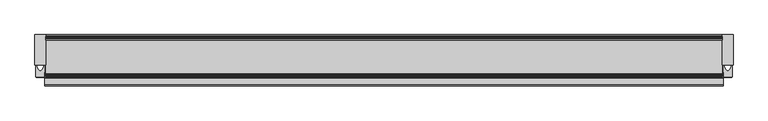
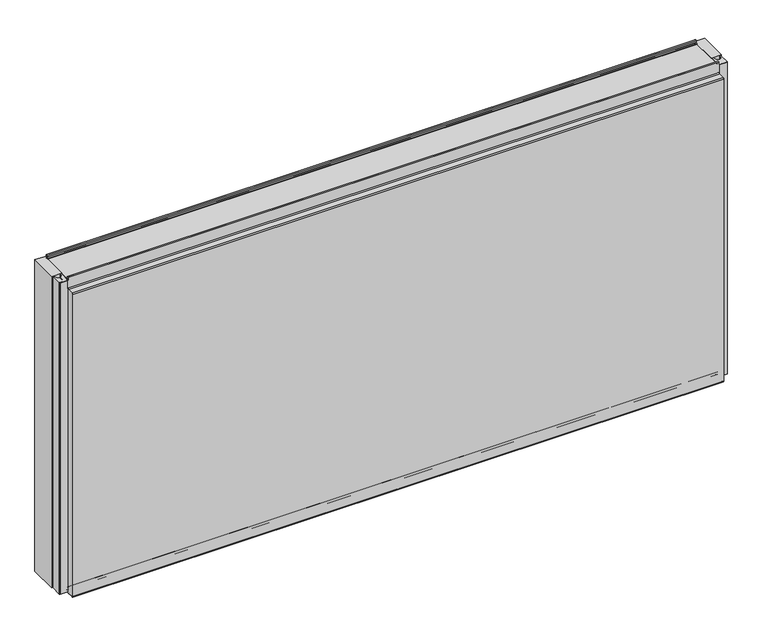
"""IFC4 building model written with IfcOpenShell, lengths in millimetres: plate geometry, Fronttop : Fronttop 150/1000."""

import ifcopenshell
import ifcopenshell.guid

model = None  # the IFC model being written
_history = None  # IfcOwnerHistory: only IFC2X3 demands one
_inside = {}  # id of a spatial element -> (the spatial element, [elements in it])
_under = {}  # id of a project, library or spatial element -> (it, [spatial elements below it])
_declared = {}  # id of a project -> (the project, [libraries it declares])
_typed = {}  # id of a type object -> (the type object, [elements of that type])
_made_of = {}  # id of a material, layer set ... -> (it, [elements and type objects made of it])


def new_model(schema):
    """Start an empty IFC model of exactly this schema.

    Asked for "IFC4X3", IfcOpenShell would pick the latest addendum, in which some entities
    have other attributes; the version numbers below select the first issue.
    IFC2X3 requires an IfcOwnerHistory on every rooted entity: one is made here for all.
    """
    global model, _history
    if schema == "IFC4X3":
        model = ifcopenshell.file(schema_version=(4, 3, 0, 0))
    else:
        model = ifcopenshell.file(schema=schema)
    _inside.clear()
    _under.clear()
    _declared.clear()
    _typed.clear()
    _made_of.clear()
    _history = None
    if model.schema == "IFC2X3":
        org = make("IfcOrganization", Name="unknown")
        user = make(
            "IfcPersonAndOrganization",
            ThePerson=make("IfcPerson", FamilyName="unknown"),
            TheOrganization=org,
        )
        app = make(
            "IfcApplication",
            ApplicationDeveloper=org,
            Version="unknown",
            ApplicationFullName="unknown",
            ApplicationIdentifier="unknown",
        )
        _history = make(
            "IfcOwnerHistory",
            OwningUser=user,
            OwningApplication=app,
            ChangeAction="ADDED",
            CreationDate=0,
        )
    return model


def make(cls, **values):
    """One entity of the class cls with the attributes given. An attribute that is None is left unset."""
    return model.create_entity(
        cls, **{name: value for name, value in values.items() if value is not None}
    )


def rooted(cls, **values):
    """An entity with a GlobalId (a new one), such as an element, a storey or a relation."""
    return make(cls, GlobalId=ifcopenshell.guid.new(), OwnerHistory=_history, **values)


def si_unit(unit_type, name, prefix=None):
    """IfcSIUnit, for example si_unit("LENGTHUNIT", "METRE", prefix="MILLI")."""
    return make("IfcSIUnit", UnitType=unit_type, Prefix=prefix, Name=name)


def assignment(units):
    """IfcUnitAssignment: the units of a project."""
    return None if units is None else make("IfcUnitAssignment", Units=units)


def point(xyz):
    """IfcCartesianPoint."""
    return None if xyz is None else make("IfcCartesianPoint", Coordinates=xyz)


def direction(xyz):
    """IfcDirection."""
    return None if xyz is None else make("IfcDirection", DirectionRatios=xyz)


def frame(location, z_axis=None, x_axis=None):
    """IfcAxis2Placement3D, a coordinate frame: its origin and axes. An axis left out is left unset."""
    return make(
        "IfcAxis2Placement3D",
        Location=point(location),
        Axis=direction(z_axis),
        RefDirection=direction(x_axis),
    )


def frame_2d(location, x_axis=None):
    """IfcAxis2Placement2D, a coordinate frame in the plane: its origin and x axis."""
    return make(
        "IfcAxis2Placement2D", Location=point(location), RefDirection=direction(x_axis)
    )


def origin():
    """The frame at (0, 0, 0) with its axes left unset."""
    return frame((0.0, 0.0, 0.0))


def origin_with_axes():
    """The frame at (0, 0, 0) with the z axis (0, 0, 1) and the x axis (1, 0, 0) written out."""
    return frame((0.0, 0.0, 0.0), z_axis=(0.0, 0.0, 1.0), x_axis=(1.0, 0.0, 0.0))


def place(relative_to, where):
    """IfcLocalPlacement: puts the frame where relative to a parent placement (None: the world)."""
    return make(
        "IfcLocalPlacement", PlacementRelTo=relative_to, RelativePlacement=where
    )


def context(
    kind, dimensions, precision=None, world=None, true_north=None, identifier=None
):
    """IfcGeometricRepresentationContext, for example the 3D "Model" context."""
    return make(
        "IfcGeometricRepresentationContext",
        ContextIdentifier=identifier,
        ContextType=kind,
        CoordinateSpaceDimension=dimensions,
        Precision=precision,
        WorldCoordinateSystem=world,
        TrueNorth=true_north,
    )


def project(units=None, contexts=None):
    """IfcProject with its units and contexts."""
    return rooted(
        "IfcProject",
        Name="project",
        RepresentationContexts=contexts,
        UnitsInContext=assignment(units),
    )


def spatial(cls, under=None, at=None, **own):
    """A site, building, storey or space (cls), placed at a placement, below another one or the project."""
    s = rooted(cls, ObjectPlacement=at, **own)
    if under is not None:
        _under.setdefault(under.id(), (under, []))[1].append(s)
    return s


def polyline(points):
    """IfcPolyline through the points."""
    return make("IfcPolyline", Points=[point(p) for p in points])


def circle_curve(where, radius):
    """IfcCircle in the frame where."""
    return make("IfcCircle", Position=where, Radius=radius)


def trimmed(basis, trim1, trim2, sense, master):
    """IfcTrimmedCurve: the piece of a basis curve between two trims."""
    return make(
        "IfcTrimmedCurve",
        BasisCurve=basis,
        Trim1=trim1,
        Trim2=trim2,
        SenseAgreement=sense,
        MasterRepresentation=master,
    )


def segment(curve, same_sense, transition):
    """IfcCompositeCurveSegment."""
    return make(
        "IfcCompositeCurveSegment",
        Transition=transition,
        SameSense=same_sense,
        ParentCurve=curve,
    )


def composite_curve(segments, self_intersect=None):
    """IfcCompositeCurve: segments joined end to end."""
    return make("IfcCompositeCurve", Segments=segments, SelfIntersect=self_intersect)


def outline(outer, holes=None, kind="AREA"):
    """IfcArbitraryClosedProfileDef: a profile drawn as a closed curve; with holes, ...WithVoids."""
    if holes is None:
        return make("IfcArbitraryClosedProfileDef", ProfileType=kind, OuterCurve=outer)
    return make(
        "IfcArbitraryProfileDefWithVoids",
        ProfileType=kind,
        OuterCurve=outer,
        InnerCurves=holes,
    )


def extrude(swept, where, along, depth):
    """IfcExtrudedAreaSolid: the profile swept, set in the frame where, extruded along a direction by depth."""
    return make(
        "IfcExtrudedAreaSolid",
        SweptArea=swept,
        Position=where,
        ExtrudedDirection=direction(along),
        Depth=depth,
    )


def shape(context_of_items, identifier, shape_type, items):
    """IfcShapeRepresentation: the items that make up one representation, for example the "Body"."""
    return make(
        "IfcShapeRepresentation",
        ContextOfItems=context_of_items,
        RepresentationIdentifier=identifier,
        RepresentationType=shape_type,
        Items=items,
    )


def source(mapping_origin, context_of_items, identifier, shape_type, items):
    """IfcRepresentationMap: a shape defined once, which mapped items show again and again."""
    return make(
        "IfcRepresentationMap",
        MappingOrigin=mapping_origin,
        MappedRepresentation=shape(context_of_items, identifier, shape_type, items),
    )


def transform(
    local_origin,
    x_axis=None,
    y_axis=None,
    z_axis=None,
    scale=None,
    scale2=None,
    scale3=None,
    uniform=True,
):
    """IfcCartesianTransformationOperator3D, or its non-uniform kind. x_axis, y_axis, z_axis: its Axis1, 2, 3."""
    if uniform:
        return make(
            "IfcCartesianTransformationOperator3D",
            Axis1=direction(x_axis),
            Axis2=direction(y_axis),
            LocalOrigin=point(local_origin),
            Scale=scale,
            Axis3=direction(z_axis),
        )
    return make(
        "IfcCartesianTransformationOperator3DnonUniform",
        Axis1=direction(x_axis),
        Axis2=direction(y_axis),
        LocalOrigin=point(local_origin),
        Scale=scale,
        Axis3=direction(z_axis),
        Scale2=scale2,
        Scale3=scale3,
    )


def mapped(mapping_source, mapping_target):
    """IfcMappedItem: shows the shape of a source again, moved by a transform."""
    return make(
        "IfcMappedItem", MappingSource=mapping_source, MappingTarget=mapping_target
    )


def made_of(thing, what):
    """Note that an element or type object is made of a material, layer set ...; save() writes the relation."""
    if what is not None:
        _made_of.setdefault(what.id(), (what, []))[1].append(thing)
    return thing


def element(
    cls,
    number,
    at=None,
    inside=None,
    cuts=None,
    type_object=None,
    material=None,
    context=None,
    identifier="Body",
    shape_type=None,
    held_by="IfcProductDefinitionShape",
    body=None,
    shapes=None,
    **own,
):
    """One element of the class cls, such as IfcWall. Its Tag is "e" and its number.

    at: its placement. inside: the storey or other place that contains it. cuts: it is an
    opening in that element (IfcRelVoidsElement). A single representation is given by context,
    identifier, shape_type and body (its items); several are given by shapes. held_by: the class
    of the entity that holds the representations. save() writes the other relations.
    """
    e = rooted(cls, Tag="e%d" % number, ObjectPlacement=at, **own)
    if body is not None:
        shapes = [shape(context, identifier, shape_type, body)]
    if shapes is not None:
        e.Representation = make(held_by, Representations=shapes)
    if inside is not None:
        _inside.setdefault(inside.id(), (inside, []))[1].append(e)
    if cuts is not None:
        rooted(
            "IfcRelVoidsElement", RelatingBuildingElement=cuts, RelatedOpeningElement=e
        )
    if type_object is not None:
        _typed.setdefault(type_object.id(), (type_object, []))[1].append(e)
    return made_of(e, material)


def aggregate(whole, parts):
    """IfcRelAggregates: a whole, such as a stair, and the parts it consists of."""
    return rooted("IfcRelAggregates", RelatingObject=whole, RelatedObjects=parts)


def save(model, path):
    """Write the relations noted so far, then the file.

    IfcRelAggregates (storeys below a building ...), IfcRelContainedInSpatialStructure (elements
    in a storey), IfcRelDefinesByType, IfcRelAssociatesMaterial and IfcRelDeclares: one each for
    every whole, place, type object, material and project.
    """
    for whole, parts in _under.values():
        aggregate(whole, parts)
    for where, things in _inside.values():
        rooted(
            "IfcRelContainedInSpatialStructure",
            RelatedElements=things,
            RelatingStructure=where,
        )
    for kind, things in _typed.values():
        rooted("IfcRelDefinesByType", RelatedObjects=things, RelatingType=kind)
    for what, things in _made_of.values():
        rooted("IfcRelAssociatesMaterial", RelatedObjects=things, RelatingMaterial=what)
    for by, libraries in _declared.values():
        rooted("IfcRelDeclares", RelatingContext=by, RelatedDefinitions=libraries)
    model.write(path)


def plane_surface(at):
    """IfcPlane: the flat surface through the origin of the frame at, square to its z axis."""
    return make("IfcPlane", Position=at)


def cylinder_surface(at, radius):
    """IfcCylindricalSurface: all points at the distance radius from the z axis of the frame at."""
    return make("IfcCylindricalSurface", Position=at, Radius=radius)


def revolved_surface(curve, axis_point, axis_direction):
    """IfcSurfaceOfRevolution: the curve turned about the line through axis_point along axis_direction."""
    return make(
        "IfcSurfaceOfRevolution",
        SweptCurve=make("IfcArbitraryOpenProfileDef", ProfileType="CURVE", Curve=curve),
        AxisPosition=make("IfcAxis1Placement", Location=point(axis_point), Axis=direction(axis_direction)),
    )


def advanced_brep(points, edges, surfaces, faces):
    """IfcAdvancedBrep: a solid bounded by faces that lie on surfaces and meet in shared edges.

    An edge is (start, end): straight between two places in points (the first is 0);
    or (start, end, curve); or (start, end, curve, False) where it runs against its curve.
    A face is (place in surfaces, loops), or (place, loops, False) where it looks against
    its surface's normal. A loop lists edges by number (the first is 1), with a minus sign
    where the edge is run from its end to its start. The first loop is the outer one.
    """
    corners = [point(p) for p in points]
    vertices = [make("IfcVertexPoint", VertexGeometry=c) for c in corners]
    made = []
    for start, end, *more in edges:
        made.append(
            make(
                "IfcEdgeCurve",
                EdgeStart=vertices[start],
                EdgeEnd=vertices[end],
                EdgeGeometry=more[0] if more else make("IfcPolyline", Points=[corners[start], corners[end]]),
                SameSense=more[1] if len(more) > 1 else True,
            )
        )
    hull = []
    for where, loops, *sense in faces:
        bounds = []
        for j, loop in enumerate(loops):
            ring = [make("IfcOrientedEdge", EdgeElement=made[abs(k) - 1], Orientation=k > 0) for k in loop]
            bounds.append(
                make(
                    "IfcFaceOuterBound" if j == 0 else "IfcFaceBound",
                    Bound=make("IfcEdgeLoop", EdgeList=ring),
                    Orientation=True,
                )
            )
        hull.append(make("IfcAdvancedFace", Bounds=bounds, FaceSurface=surfaces[where], SameSense=sense[0] if sense else True))
    return make("IfcAdvancedBrep", Outer=make("IfcClosedShell", CfsFaces=hull))


def plate_90e80e06(model_context):
    return source(origin(), model_context, "Body", "SolidModel", [
        advanced_brep(
        [(-986.5, -124.0, 1008.0), (-986.5, -124.0, 1000.0), (-986.5, -125.0, 1000.0), (-986.5, -125.0, 1008.0), (-986.5, -120.0, 1008.0), (-986.5, -120.0, 1004.0), (-986.5, -117.0, 1001.0), (-986.5, -115.0, 1001.0), (-986.5, -115.0, 1000.0), (-986.5, -117.0, 1000.0), (-986.5, -121.0, 1004.0), (-986.5, -121.0, 1008.0), (986.5, -125.0, 1008.0), (986.5, -125.0, 1000.0), (986.5, -124.0, 1000.0), (986.5, -124.0, 1008.0), (986.5, -121.0, 1008.0), (986.5, -121.0, 1004.0), (986.5, -117.0, 1000.0), (986.5, -115.0, 1000.0), (986.5, -115.0, 1001.0), (986.5, -117.0, 1001.0), (986.5, -120.0, 1004.0), (986.5, -120.0, 1008.0), (-986.5, -117.0, 2.0), (-986.5, -115.0, 2.0), (986.5, -115.0, 2.0), (986.5, -117.0, 2.0), (986.5, -119.0, 4.0), (-986.5, -119.0, 4.0), (986.5, -119.0, 8.0), (-986.5, -119.0, 8.0), (986.5, -126.0, 8.0), (-986.5, -126.0, 8.0), (986.5, -126.0, 0.0), (-986.5, -126.0, 0.0), (986.5, -129.0, -3.0), (-986.5, -129.0, -3.0), (986.5, -125.0, -3.0), (987.5, -125.0, -3.0), (987.5, -147.0, -3.0), (986.5, -147.0, -3.0), (-986.5, -147.0, -3.0), (-987.5, -147.0, -3.0), (-987.5, -125.0, -3.0), (-986.5, -125.0, -3.0), (986.5, -150.0, 0.0), (-986.5, -150.0, 0.0), (987.5, -150.0, 0.0), (987.5, -150.0, 969.0), (986.5, -150.0, 969.0), (-986.5, -150.0, 969.0), (-987.5, -150.0, 969.0), (-987.5, -150.0, 0.0), (986.5, -147.0, 972.0), (-986.5, -147.0, 972.0), (987.5, -147.0, 972.0), (987.5, -128.0, 972.0), (986.5, -128.0, 972.0), (-986.5, -128.0, 972.0), (-987.5, -128.0, 972.0), (-987.5, -147.0, 972.0), (986.5, -125.0, 975.0), (-986.5, -125.0, 975.0), (987.5, -125.0, 975.0), (987.5, -125.0, 1000.0), (-987.5, -125.0, 1000.0), (-987.5, -125.0, 975.0), (986.5, -124.0, 975.0), (-986.5, -124.0, 975.0), (986.5, -128.0, 971.0), (-986.5, -128.0, 971.0), (986.5, -147.0, 971.0), (-986.5, -147.0, 971.0), (986.5, -149.0, 969.0), (-986.5, -149.0, 969.0), (986.5, -149.0, 0.0), (-986.5, -149.0, 0.0), (986.5, -147.0, -2.0), (-986.5, -147.0, -2.0), (986.5, -129.0, -2.0), (-986.5, -129.0, -2.0), (986.5, -127.0, 0.0), (-986.5, -127.0, 0.0), (986.5, -127.0, 8.0), (-986.5, -127.0, 8.0), (986.5, -118.0, 8.0), (-986.5, -118.0, 8.0), (986.5, -118.0, 4.0), (-986.5, -118.0, 4.0), (986.5, -117.0, 3.0), (-986.5, -117.0, 3.0), (986.5, -115.0, 3.0), (-986.5, -115.0, 3.0), (987.5, -125.0, 0.0), (987.5, -110.0, 0.0), (987.5, -110.0, 1000.0), (986.5, -110.0, 1000.0), (986.5, -110.0, 0.0), (986.5, -125.0, 0.0), (-987.5, -110.0, 1000.0), (-987.5, -110.0, 0.0), (-987.5, -125.0, 0.0), (-986.5, -110.0, 1000.0), (-986.5, -125.0, 0.0), (-986.5, -110.0, 0.0)],
        [
            (0, 1),
            (1, 2),
            (2, 3),
            (3, 4, circle_curve(frame((-986.5, -122.5, 1008.0), z_axis=(-1.0, 0.0, 0.0), x_axis=(0.0, 1.0, 0.0)), 2.5)),
            (4, 5),
            (5, 6, circle_curve(frame((-986.5, -117.0, 1004.0), z_axis=(1.0, 0.0, 0.0), x_axis=(0.0, 1.0, 0.0)), 3.0)),
            (6, 7),
            (7, 8),
            (8, 9),
            (9, 10, circle_curve(frame((-986.5, -117.0, 1004.0), z_axis=(-1.0, 0.0, 0.0), x_axis=(0.0, 1.0, 0.0)), 4.0)),
            (10, 11),
            (11, 0, circle_curve(frame((-986.5, -122.5, 1008.0), z_axis=(1.0, 0.0, 0.0), x_axis=(0.0, 1.0, 0.0)), 1.5)),
            (12, 13),
            (13, 14),
            (14, 15),
            (15, 16, circle_curve(frame((986.5, -122.5, 1008.0), z_axis=(-1.0, 0.0, 0.0), x_axis=(0.0, 1.0, 0.0)), 1.5)),
            (16, 17),
            (17, 18, circle_curve(frame((986.5, -117.0, 1004.0), z_axis=(1.0, 0.0, 0.0), x_axis=(0.0, 1.0, 0.0)), 4.0)),
            (18, 19),
            (19, 20),
            (20, 21),
            (21, 22, circle_curve(frame((986.5, -117.0, 1004.0), z_axis=(-1.0, 0.0, 0.0), x_axis=(0.0, 1.0, 0.0)), 3.0)),
            (22, 23),
            (23, 12, circle_curve(frame((986.5, -122.5, 1008.0), z_axis=(1.0, 0.0, 0.0), x_axis=(0.0, 1.0, 0.0)), 2.5)),
            (24, 25),
            (25, 26),
            (26, 27),
            (27, 24),
            (27, 28, circle_curve(frame((986.5, -117.0, 4.0), z_axis=(-1.0, 0.0, 0.0), x_axis=(0.0, 1.0, 0.0)), 2.0)),
            (28, 29),
            (29, 24, circle_curve(frame((-986.5, -117.0, 4.0), z_axis=(1.0, 0.0, 0.0), x_axis=(0.0, 1.0, 0.0)), 2.0)),
            (28, 30),
            (30, 31),
            (31, 29),
            (30, 32, circle_curve(frame((986.5, -122.5, 8.0), z_axis=(1.0, 0.0, 0.0), x_axis=(0.0, 1.0, 0.0)), 3.5)),
            (32, 33),
            (33, 31, circle_curve(frame((-986.5, -122.5, 8.0), z_axis=(-1.0, 0.0, 0.0), x_axis=(0.0, 1.0, 0.0)), 3.5)),
            (32, 34),
            (34, 35),
            (35, 33),
            (34, 36, circle_curve(frame((986.5, -129.0, 0.0), z_axis=(-1.0, 0.0, 0.0), x_axis=(0.0, 1.0, 0.0)), 3.0)),
            (36, 37),
            (37, 35, circle_curve(frame((-986.5, -129.0, 0.0), z_axis=(1.0, 0.0, 0.0), x_axis=(0.0, 1.0, 0.0)), 3.0)),
            (36, 38),
            (38, 39),
            (39, 40),
            (40, 41),
            (41, 42),
            (42, 43),
            (43, 44),
            (44, 45),
            (45, 37),
            (41, 46, circle_curve(frame((986.5, -147.0, 0.0), z_axis=(-1.0, 0.0, 0.0), x_axis=(0.0, 1.0, 0.0)), 3.0)),
            (46, 47),
            (47, 42, circle_curve(frame((-986.5, -147.0, 0.0), z_axis=(1.0, 0.0, 0.0), x_axis=(0.0, 1.0, 0.0)), 3.0)),
            (46, 48),
            (48, 49),
            (49, 50),
            (50, 51),
            (51, 52),
            (52, 53),
            (53, 47),
            (50, 54, circle_curve(frame((986.5, -147.0, 969.0), z_axis=(-1.0, 0.0, 0.0), x_axis=(0.0, 1.0, 0.0)), 3.0)),
            (54, 55),
            (55, 51, circle_curve(frame((-986.5, -147.0, 969.0), z_axis=(1.0, 0.0, 0.0), x_axis=(0.0, 1.0, 0.0)), 3.0)),
            (54, 56),
            (56, 57),
            (57, 58),
            (58, 59),
            (59, 60),
            (60, 61),
            (61, 55),
            (58, 62, circle_curve(frame((986.5, -128.0, 975.0), z_axis=(1.0, 0.0, 0.0), x_axis=(0.0, 1.0, 0.0)), 3.0)),
            (62, 63),
            (63, 59, circle_curve(frame((-986.5, -128.0, 975.0), z_axis=(-1.0, 0.0, 0.0), x_axis=(0.0, 1.0, 0.0)), 3.0)),
            (62, 64),
            (64, 65),
            (65, 13),
            (12, 3),
            (2, 66),
            (66, 67),
            (67, 63),
            (23, 4),
            (22, 5),
            (21, 6),
            (20, 7),
            (19, 8),
            (19, 18),
            (18, 9),
            (9, 8),
            (17, 10),
            (16, 11),
            (15, 0),
            (14, 68),
            (68, 69),
            (69, 1),
            (68, 70, circle_curve(frame((986.5, -128.0, 975.0), z_axis=(-1.0, 0.0, 0.0), x_axis=(0.0, 1.0, 0.0)), 4.0)),
            (70, 71),
            (71, 69, circle_curve(frame((-986.5, -128.0, 975.0), z_axis=(1.0, 0.0, 0.0), x_axis=(0.0, 1.0, 0.0)), 4.0)),
            (70, 72),
            (72, 73),
            (73, 71),
            (72, 74, circle_curve(frame((986.5, -147.0, 969.0), z_axis=(1.0, 0.0, 0.0), x_axis=(0.0, 1.0, 0.0)), 2.0)),
            (74, 75),
            (75, 73, circle_curve(frame((-986.5, -147.0, 969.0), z_axis=(-1.0, 0.0, 0.0), x_axis=(0.0, 1.0, 0.0)), 2.0)),
            (74, 76),
            (76, 77),
            (77, 75),
            (76, 78, circle_curve(frame((986.5, -147.0, 0.0), z_axis=(1.0, 0.0, 0.0), x_axis=(0.0, 1.0, 0.0)), 2.0)),
            (78, 79),
            (79, 77, circle_curve(frame((-986.5, -147.0, 0.0), z_axis=(-1.0, 0.0, 0.0), x_axis=(0.0, 1.0, 0.0)), 2.0)),
            (78, 80),
            (80, 81),
            (81, 79),
            (80, 82, circle_curve(frame((986.5, -129.0, 0.0), z_axis=(1.0, 0.0, 0.0), x_axis=(0.0, 1.0, 0.0)), 2.0)),
            (82, 83),
            (83, 81, circle_curve(frame((-986.5, -129.0, 0.0), z_axis=(-1.0, 0.0, 0.0), x_axis=(0.0, 1.0, 0.0)), 2.0)),
            (82, 84),
            (84, 85),
            (85, 83),
            (84, 86, circle_curve(frame((986.5, -122.5, 8.0), z_axis=(-1.0, 0.0, 0.0), x_axis=(0.0, 1.0, 0.0)), 4.5)),
            (86, 87),
            (87, 85, circle_curve(frame((-986.5, -122.5, 8.0), z_axis=(1.0, 0.0, 0.0), x_axis=(0.0, 1.0, 0.0)), 4.5)),
            (86, 88),
            (88, 89),
            (89, 87),
            (88, 90, circle_curve(frame((986.5, -117.0, 4.0), z_axis=(1.0, 0.0, 0.0), x_axis=(0.0, 1.0, 0.0)), 1.0)),
            (90, 91),
            (91, 89, circle_curve(frame((-986.5, -117.0, 4.0), z_axis=(-1.0, 0.0, 0.0), x_axis=(0.0, 1.0, 0.0)), 1.0)),
            (90, 92),
            (92, 93),
            (93, 91),
            (25, 93),
            (92, 26),
            (64, 57, circle_curve(frame((987.5, -128.0, 975.0), z_axis=(-1.0, 0.0, 0.0), x_axis=(0.0, -1.0, 0.0)), 3.0)),
            (56, 49, circle_curve(frame((987.5, -147.0, 969.0), z_axis=(1.0, 0.0, 0.0), x_axis=(0.0, -1.0, 0.0)), 3.0)),
            (48, 40, circle_curve(frame((987.5, -147.0, 0.0), z_axis=(1.0, 0.0, 0.0), x_axis=(0.0, -1.0, 0.0)), 3.0)),
            (39, 94),
            (94, 95),
            (95, 96),
            (96, 65),
            (14, 18),
            (19, 97),
            (97, 98),
            (98, 99),
            (99, 38),
            (96, 97),
            (95, 98),
            (94, 99),
            (66, 100),
            (100, 101),
            (101, 102),
            (102, 44),
            (43, 53, circle_curve(frame((-987.5, -147.0, 0.0), z_axis=(-1.0, 0.0, 0.0), x_axis=(0.0, -1.0, 0.0)), 3.0)),
            (52, 61, circle_curve(frame((-987.5, -147.0, 969.0), z_axis=(-1.0, 0.0, 0.0), x_axis=(0.0, -1.0, 0.0)), 3.0)),
            (60, 67, circle_curve(frame((-987.5, -128.0, 975.0), z_axis=(1.0, 0.0, 0.0), x_axis=(0.0, -1.0, 0.0)), 3.0)),
            (103, 8),
            (9, 1),
            (45, 104),
            (104, 105),
            (105, 103),
            (103, 100),
            (105, 101),
            (104, 102),
        ],
        [
            plane_surface(frame((-986.5, 0.0, 0.0), z_axis=(-1.0, 0.0, 0.0), x_axis=(0.0, 0.0, 1.0))),
            plane_surface(frame((986.5, 0.0, 0.0), z_axis=(1.0, 0.0, 0.0), x_axis=(0.0, 0.0, 1.0))),
            plane_surface(frame((-986.5, -117.0, 2.0), z_axis=(0.0, 0.0, -1.0), x_axis=(1.0, 0.0, 0.0))),
            cylinder_surface(frame((-986.5, -117.0, 4.0), z_axis=(-1.0, 0.0, 0.0), x_axis=(0.0, 1.0, 0.0)), 2.0),
            plane_surface(frame((-986.5, -119.0, 8.0), z_axis=(0.0, -1.0, 0.0), x_axis=(1.0, 0.0, 0.0))),
            revolved_surface(polyline([(986.5, -119.0, 8.0), (-986.5, -119.0, 8.0)]), (-986.5, -122.5, 8.0), (1.0, 0.0, 0.0)),
            plane_surface(frame((-986.5, -126.0, 0.0), z_axis=(0.0, 1.0, 0.0), x_axis=(1.0, 0.0, 0.0))),
            cylinder_surface(frame((-986.5, -129.0, 0.0), z_axis=(-1.0, 0.0, 0.0), x_axis=(0.0, 1.0, 0.0)), 3.0),
            plane_surface(frame((-986.5, -147.0, -3.0), z_axis=(0.0, 0.0, -1.0), x_axis=(1.0, 0.0, 0.0))),
            cylinder_surface(frame((-986.5, -147.0, 0.0), z_axis=(-1.0, 0.0, 0.0), x_axis=(0.0, 1.0, 0.0)), 3.0),
            plane_surface(frame((-986.5, -150.0, 969.0), z_axis=(0.0, -1.0, 0.0), x_axis=(1.0, 0.0, 0.0))),
            cylinder_surface(frame((-986.5, -147.0, 969.0), z_axis=(-1.0, 0.0, 0.0), x_axis=(0.0, 1.0, 0.0)), 3.0),
            plane_surface(frame((-986.5, -128.0, 972.0), z_axis=(0.0, 0.0, 1.0), x_axis=(1.0, 0.0, 0.0))),
            revolved_surface(polyline([(986.5, -125.0, 975.0), (-986.5, -125.0, 975.0)]), (-986.5, -128.0, 975.0), (1.0, 0.0, 0.0)),
            plane_surface(frame((-986.5, -125.0, 1008.0), z_axis=(0.0, -1.0, 0.0), x_axis=(1.0, 0.0, 0.0))),
            cylinder_surface(frame((-986.5, -122.5, 1008.0), z_axis=(-1.0, 0.0, 0.0), x_axis=(0.0, 1.0, 0.0)), 2.5),
            plane_surface(frame((-986.5, -120.0, 1004.0), z_axis=(0.0, 1.0, 0.0), x_axis=(1.0, 0.0, 0.0))),
            revolved_surface(polyline([(986.5, -114.0, 1004.0), (-986.5, -114.0, 1004.0)]), (-986.5, -117.0, 1004.0), (1.0, 0.0, 0.0)),
            plane_surface(frame((-986.5, -115.0, 1001.0), z_axis=(0.0, 0.0, 1.0), x_axis=(1.0, 0.0, 0.0))),
            plane_surface(frame((-986.5, -115.0, 1000.0), z_axis=(0.0, 1.0, 0.0), x_axis=(1.0, 0.0, 0.0))),
            plane_surface(frame((-986.5, -117.0, 1000.0), z_axis=(0.0, 0.0, -1.0), x_axis=(1.0, 0.0, 0.0))),
            cylinder_surface(frame((-986.5, -117.0, 1004.0), z_axis=(-1.0, 0.0, 0.0), x_axis=(0.0, 1.0, 0.0)), 4.0),
            plane_surface(frame((-986.5, -121.0, 1008.0), z_axis=(0.0, -1.0, 0.0), x_axis=(1.0, 0.0, 0.0))),
            revolved_surface(polyline([(986.5, -121.0, 1008.0), (-986.5, -121.0, 1008.0)]), (-986.5, -122.5, 1008.0), (1.0, 0.0, 0.0)),
            plane_surface(frame((-986.5, -124.0, 975.0), z_axis=(0.0, 1.0, 0.0), x_axis=(1.0, 0.0, 0.0))),
            cylinder_surface(frame((-986.5, -128.0, 975.0), z_axis=(-1.0, 0.0, 0.0), x_axis=(0.0, 1.0, 0.0)), 4.0),
            plane_surface(frame((-986.5, -147.0, 971.0), z_axis=(0.0, 0.0, -1.0), x_axis=(1.0, 0.0, 0.0))),
            revolved_surface(polyline([(986.5, -145.0, 969.0), (-986.5, -145.0, 969.0)]), (-986.5, -147.0, 969.0), (1.0, 0.0, 0.0)),
            plane_surface(frame((-986.5, -149.0, 0.0), z_axis=(0.0, 1.0, 0.0), x_axis=(1.0, 0.0, 0.0))),
            revolved_surface(polyline([(986.5, -145.0, 0.0), (-986.5, -145.0, 0.0)]), (-986.5, -147.0, 0.0), (1.0, 0.0, 0.0)),
            plane_surface(frame((-986.5, -129.0, -2.0), z_axis=(0.0, 0.0, 1.0), x_axis=(1.0, 0.0, 0.0))),
            revolved_surface(polyline([(986.5, -127.0, 0.0), (-986.5, -127.0, 0.0)]), (-986.5, -129.0, 0.0), (1.0, 0.0, 0.0)),
            plane_surface(frame((-986.5, -127.0, 8.0), z_axis=(0.0, -1.0, 0.0), x_axis=(1.0, 0.0, 0.0))),
            cylinder_surface(frame((-986.5, -122.5, 8.0), z_axis=(-1.0, 0.0, 0.0), x_axis=(0.0, 1.0, 0.0)), 4.5),
            plane_surface(frame((-986.5, -118.0, 4.0), z_axis=(0.0, 1.0, 0.0), x_axis=(1.0, 0.0, 0.0))),
            revolved_surface(polyline([(986.5, -116.0, 4.0), (-986.5, -116.0, 4.0)]), (-986.5, -117.0, 4.0), (1.0, 0.0, 0.0)),
            plane_surface(frame((-986.5, -115.0, 3.0), z_axis=(0.0, 0.0, 1.0), x_axis=(1.0, 0.0, 0.0))),
            plane_surface(frame((-986.5, -115.0, 2.0), z_axis=(0.0, 1.0, 0.0), x_axis=(1.0, 0.0, 0.0))),
            plane_surface(frame((987.5, -125.0, 1000.0), z_axis=(1.0, 0.0, 0.0), x_axis=(0.0, 1.0, 0.0))),
            plane_surface(frame((986.5, -125.0, 1000.0), z_axis=(-1.0, 0.0, 0.0), x_axis=(0.0, -1.0, 0.0))),
            plane_surface(frame((987.5, -125.0, 1000.0), z_axis=(0.0, 0.0, 1.0), x_axis=(-1.0, 0.0, 0.0))),
            plane_surface(frame((987.5, -110.0, 1000.0), z_axis=(0.0, 1.0, 0.0), x_axis=(-1.0, 0.0, 0.0))),
            plane_surface(frame((987.5, -110.0, 0.0), z_axis=(0.0, 0.0, -1.0), x_axis=(-1.0, 0.0, 0.0))),
            cylinder_surface(frame((986.5, -147.0, 0.0), z_axis=(1.0, 0.0, 0.0), x_axis=(0.0, -1.0, 0.0)), 3.0),
            cylinder_surface(frame((986.5, -147.0, 969.0), z_axis=(1.0, 0.0, 0.0), x_axis=(0.0, -1.0, 0.0)), 3.0),
            revolved_surface(polyline([(986.5, -131.0, 975.0), (987.5, -131.0, 975.0)]), (986.5, -128.0, 975.0), (-1.0, 0.0, 0.0)),
            plane_surface(frame((-987.5, -125.0, 1000.0), z_axis=(-1.0, 0.0, 0.0), x_axis=(0.0, -1.0, 0.0))),
            plane_surface(frame((-986.5, -125.0, 1000.0), z_axis=(1.0, 0.0, 0.0), x_axis=(0.0, 1.0, 0.0))),
            plane_surface(frame((-986.5, -125.0, 1000.0), z_axis=(0.0, 0.0, 1.0), x_axis=(-1.0, 0.0, 0.0))),
            plane_surface(frame((-986.5, -110.0, 1000.0), z_axis=(0.0, 1.0, 0.0), x_axis=(-1.0, 0.0, 0.0))),
            plane_surface(frame((-986.5, -110.0, 0.0), z_axis=(0.0, 0.0, -1.0), x_axis=(-1.0, 0.0, 0.0))),
            cylinder_surface(frame((-987.5, -147.0, 0.0), z_axis=(1.0, 0.0, 0.0), x_axis=(0.0, -1.0, 0.0)), 3.0),
            cylinder_surface(frame((-987.5, -147.0, 969.0), z_axis=(1.0, 0.0, 0.0), x_axis=(0.0, -1.0, 0.0)), 3.0),
            revolved_surface(polyline([(-987.5, -131.0, 975.0), (-986.5, -131.0, 975.0)]), (-987.5, -128.0, 975.0), (-1.0, 0.0, 0.0)),
            plane_surface(frame((987.5, -125.0, 0.0), z_axis=(0.0, 1.0, 0.0), x_axis=(-1.0, 0.0, 0.0))),
            plane_surface(frame((-986.5, -125.0, 0.0), z_axis=(0.0, 1.0, 0.0), x_axis=(-1.0, 0.0, 0.0))),
        ],
        [
            (0, [[1, 2, 3, 4, 5, 6, 7, 8, 9, 10, 11, 12]]),
            (1, [[13, 14, 15, 16, 17, 18, 19, 20, 21, 22, 23, 24]]),
            (2, [[25, 26, 27, 28]]),
            (3, [[29, 30, 31, -28]]),
            (4, [[32, 33, 34, -30]]),
            (5, [[35, 36, 37, -33]]),
            (6, [[38, 39, 40, -36]]),
            (7, [[41, 42, 43, -39]]),
            (8, [[44, 45, 46, 47, 48, 49, 50, 51, 52, -42]]),
            (9, [[53, 54, 55, -48]]),
            (10, [[56, 57, 58, 59, 60, 61, 62, -54]]),
            (11, [[63, 64, 65, -59]]),
            (12, [[66, 67, 68, 69, 70, 71, 72, -64]]),
            (13, [[73, 74, 75, -69]]),
            (14, [[76, 77, 78, -13, 79, -3, 80, 81, 82, -74]]),
            (15, [[-79, -24, 83, -4]]),
            (16, [[-83, -23, 84, -5]]),
            (17, [[-84, -22, 85, -6]]),
            (18, [[-85, -21, 86, -7]]),
            (19, [[-86, -20, 87, -8]]),
            (20, [[88, 89, 90, -87]]),
            (21, [[-89, -18, 91, -10]]),
            (22, [[-91, -17, 92, -11]]),
            (23, [[-92, -16, 93, -12]]),
            (24, [[-15, 94, 95, 96, -1, -93]]),
            (25, [[97, 98, 99, -95]]),
            (26, [[100, 101, 102, -98]]),
            (27, [[103, 104, 105, -101]]),
            (28, [[106, 107, 108, -104]]),
            (29, [[109, 110, 111, -107]]),
            (30, [[112, 113, 114, -110]]),
            (31, [[115, 116, 117, -113]]),
            (32, [[118, 119, 120, -116]]),
            (33, [[121, 122, 123, -119]]),
            (34, [[124, 125, 126, -122]]),
            (35, [[127, 128, 129, -125]]),
            (36, [[130, 131, 132, -128]]),
            (37, [[133, -131, 134, -26]]),
            (38, [[-77, 135, -67, 136, -57, 137, -46, 138, 139, 140, 141]]),
            (39, [[-44, -41, -38, -35, -32, -29, -27, -134, -130, -127, -124, -121, -118, -115, -112, -109, -106, -103, -100, -97, -94, 142, -88, 143, 144, 145, 146]]),
            (40, [[147, -143, -19, -142, -14, -78, -141]]),
            (41, [[148, -144, -147, -140]]),
            (42, [[149, -145, -148, -139]]),
            (43, [[-56, -53, -47, -137]]),
            (44, [[-66, -63, -58, -136]]),
            (45, [[-76, -73, -68, -135]]),
            (46, [[150, 151, 152, 153, -50, 154, -61, 155, -71, 156, -81]]),
            (47, [[157, -90, 158, -96, -99, -102, -105, -108, -111, -114, -117, -120, -123, -126, -129, -132, -133, -25, -31, -34, -37, -40, -43, -52, 159, 160, 161]]),
            (48, [[-80, -2, -158, -9, -157, 162, -150]]),
            (49, [[-162, -161, 163, -151]]),
            (50, [[-163, -160, 164, -152]]),
            (51, [[-49, -55, -62, -154]]),
            (52, [[-60, -65, -72, -155]]),
            (53, [[-70, -75, -82, -156]]),
            (54, [[-45, -146, -149, -138]]),
            (55, [[-164, -159, -51, -153]]),
        ],
    ),
        extrude(outline(composite_curve([segment(polyline([(-1012.5001545, -123.5), (-1012.5001545, -90.0), (-1009.75, -90.0), (-1009.75, -92.5)]), True, "CONTINUOUS"), segment(trimmed(circle_curve(frame_2d((-991.9661979, -89.3183984)), 18.0661619), [point((-1009.75, -92.5))], [point((-1000.0, -105.5))], True, "CARTESIAN"), True, "CONTINUOUS"), segment(trimmed(circle_curve(frame_2d((-1008.0338021, -89.3183984)), 18.0661619), [point((-1000.0, -105.5))], [point((-990.25, -92.5))], True, "CARTESIAN"), True, "CONTINUOUS"), segment(polyline([(-990.25, -92.5), (-990.25, -90.0), (-987.4998455, -90.0), (-987.4998455, -123.5), (-999.25, -123.5), (-999.25, -107.5), (-1000.75, -107.5), (-1000.75, -123.5), (-1012.5001545, -123.5)]), True, "CONTINUOUS")], self_intersect=False)), origin_with_axes(), (0.0, 0.0, 1.0), 1000.0),
        extrude(outline(polyline([(-984.5, 0.0), (-984.5, -88.0), (-1015.5, -88.0), (-1015.5, 0.0), (-984.5, 0.0)])), origin_with_axes(), (0.0, 0.0, 1.0), 1000.0),
        extrude(outline(polyline([(-1011.5051154, -125.0), (-1011.5051154, -123.5), (-1000.65, -123.5), (-1000.65, -109.0759655), (-999.3497504, -109.0759655), (-999.3497504, -123.5), (-988.4948846, -123.5), (-988.4948846, -125.0), (-1011.5051154, -125.0)])), origin_with_axes(), (0.0, 0.0, 1.0), 1000.0),
        extrude(outline(composite_curve([segment(polyline([(987.4998455, -123.5), (987.4998455, -90.0), (990.25, -90.0), (990.25, -92.5)]), True, "CONTINUOUS"), segment(trimmed(circle_curve(frame_2d((1008.0338021, -89.3183984)), 18.0661619), [point((990.25, -92.5))], [point((1000.0, -105.5))], True, "CARTESIAN"), True, "CONTINUOUS"), segment(trimmed(circle_curve(frame_2d((991.9661979, -89.3183984)), 18.0661619), [point((1000.0, -105.5))], [point((1009.75, -92.5))], True, "CARTESIAN"), True, "CONTINUOUS"), segment(polyline([(1009.75, -92.5), (1009.75, -90.0), (1012.5001545, -90.0), (1012.5001545, -123.5), (1000.75, -123.5), (1000.75, -107.5), (999.25, -107.5), (999.25, -123.5), (987.4998455, -123.5)]), True, "CONTINUOUS")], self_intersect=False)), origin_with_axes(), (0.0, 0.0, 1.0), 1000.0),
        extrude(outline(polyline([(1015.5, 0.0), (1015.5, -88.0), (984.5, -88.0), (984.5, 0.0), (1015.5, 0.0)])), origin_with_axes(), (0.0, 0.0, 1.0), 1000.0),
        extrude(outline(polyline([(988.4948846, -125.0), (988.4948846, -123.5), (999.35, -123.5), (999.35, -109.0759655), (1000.6502496, -109.0759655), (1000.6502496, -123.5), (1011.5051154, -123.5), (1011.5051154, -125.0), (988.4948846, -125.0)])), origin_with_axes(), (0.0, 0.0, 1.0), 1000.0),
        advanced_brep(
        [(-984.5, -13.0, 1001.0), (-984.5, -10.0, 1004.0), (-984.5, -10.0, 1008.0), (-984.5, -5.0, 1008.0), (-984.5, -5.0, 999.5), (-984.5, -2.2239212, 997.0152907), (-984.5, 0.0, 995.0), (-984.5, 0.0, -0.5), (-984.5, -4.0, -0.5), (-984.5, -4.0, 8.0), (-984.5, -11.0, 8.0), (-984.5, -11.0, 4.0), (-984.5, -13.0, 2.0), (-984.5, -15.0, 2.0), (-984.5, -15.0, 3.0), (-984.5, -13.0, 3.0), (-984.5, -12.0, 4.0), (-984.5, -12.0, 8.0), (-984.5, -3.0, 8.0), (-984.5, -3.0, -0.5), (-984.5, -1.0, -0.5), (-984.5, -1.0, 995.0), (-984.5, -2.1104315, 995.9938837), (-984.5, -6.0, 999.5), (-984.5, -6.0, 1008.0), (-984.5, -9.0, 1008.0), (-984.5, -9.0, 1004.0), (-984.5, -13.0, 1000.0), (-984.5, -15.0, 1000.0), (-984.5, -15.0, 1001.0), (984.5, -13.0, 1001.0), (984.5, -15.0, 1001.0), (984.5, -15.0, 1000.0), (984.5, -13.0, 1000.0), (984.5, -9.0, 1004.0), (984.5, -9.0, 1008.0), (984.5, -6.0, 1008.0), (984.5, -6.0, 999.5), (984.5, -2.1134897, 996.0214069), (984.5, -1.0, 995.0), (984.5, -1.0, -0.5), (984.5, -3.0, -0.5), (984.5, -3.0, 8.0), (984.5, -12.0, 8.0), (984.5, -12.0, 4.0), (984.5, -13.0, 3.0), (984.5, -15.0, 3.0), (984.5, -15.0, 2.0), (984.5, -13.0, 2.0), (984.5, -11.0, 4.0), (984.5, -11.0, 8.0), (984.5, -4.0, 8.0), (984.5, -4.0, -0.5), (984.5, 0.0, -0.5), (984.5, 0.0, 995.0), (984.5, -2.220863, 996.9877675), (984.5, -5.0, 999.5), (984.5, -5.0, 1008.0), (984.5, -10.0, 1008.0), (984.5, -10.0, 1004.0)],
        [
            (0, 1, circle_curve(frame((-984.5, -13.0, 1004.0), z_axis=(1.0, 0.0, 0.0), x_axis=(0.0, 1.0, 0.0)), 3.0)),
            (1, 2),
            (2, 3, circle_curve(frame((-984.5, -7.5, 1008.0), z_axis=(-1.0, 0.0, 0.0), x_axis=(0.0, 1.0, 0.0)), 2.5)),
            (3, 4),
            (4, 5, circle_curve(frame((-984.5, -2.5, 999.5), z_axis=(1.0, 0.0, 0.0), x_axis=(0.0, 1.0, 0.0)), 2.5)),
            (5, 6, circle_curve(frame((-984.5, -2.0, 995.0), z_axis=(-1.0, 0.0, 0.0), x_axis=(0.0, 1.0, 0.0)), 2.0)),
            (6, 7),
            (7, 8, circle_curve(frame((-984.5, -2.0, -0.5), z_axis=(-1.0, 0.0, 0.0), x_axis=(0.0, 1.0, 0.0)), 2.0)),
            (8, 9),
            (9, 10, circle_curve(frame((-984.5, -7.5, 8.0), z_axis=(1.0, 0.0, 0.0), x_axis=(0.0, 1.0, 0.0)), 3.5)),
            (10, 11),
            (11, 12, circle_curve(frame((-984.5, -13.0, 4.0), z_axis=(-1.0, 0.0, 0.0), x_axis=(0.0, 1.0, 0.0)), 2.0)),
            (12, 13),
            (13, 14),
            (14, 15),
            (15, 16, circle_curve(frame((-984.5, -13.0, 4.0), z_axis=(1.0, 0.0, 0.0), x_axis=(0.0, 1.0, 0.0)), 1.0)),
            (16, 17),
            (17, 18, circle_curve(frame((-984.5, -7.5, 8.0), z_axis=(-1.0, 0.0, 0.0), x_axis=(0.0, 1.0, 0.0)), 4.5)),
            (18, 19),
            (19, 20, circle_curve(frame((-984.5, -2.0, -0.5), z_axis=(1.0, 0.0, 0.0), x_axis=(0.0, 1.0, 0.0)), 1.0)),
            (20, 21),
            (21, 22, circle_curve(frame((-984.5, -2.0, 995.0), z_axis=(1.0, 0.0, 0.0), x_axis=(0.0, 1.0, 0.0)), 1.0)),
            (22, 23, circle_curve(frame((-984.5, -2.5, 999.5), z_axis=(-1.0, 0.0, 0.0), x_axis=(0.0, 1.0, 0.0)), 3.5)),
            (23, 24),
            (24, 25, circle_curve(frame((-984.5, -7.5, 1008.0), z_axis=(1.0, 0.0, 0.0), x_axis=(0.0, 1.0, 0.0)), 1.5)),
            (25, 26),
            (26, 27, circle_curve(frame((-984.5, -13.0, 1004.0), z_axis=(-1.0, 0.0, 0.0), x_axis=(0.0, 1.0, 0.0)), 4.0)),
            (27, 28),
            (28, 29),
            (29, 0),
            (30, 31),
            (31, 32),
            (32, 33),
            (33, 34, circle_curve(frame((984.5, -13.0, 1004.0), z_axis=(1.0, 0.0, 0.0), x_axis=(0.0, 1.0, 0.0)), 4.0)),
            (34, 35),
            (35, 36, circle_curve(frame((984.5, -7.5, 1008.0), z_axis=(-1.0, 0.0, 0.0), x_axis=(0.0, 1.0, 0.0)), 1.5)),
            (36, 37),
            (37, 38, circle_curve(frame((984.5, -2.5, 999.5), z_axis=(1.0, 0.0, 0.0), x_axis=(0.0, 1.0, 0.0)), 3.5)),
            (38, 39, circle_curve(frame((984.5, -2.0, 995.0), z_axis=(-1.0, 0.0, 0.0), x_axis=(0.0, 1.0, 0.0)), 1.0)),
            (39, 40),
            (40, 41, circle_curve(frame((984.5, -2.0, -0.5), z_axis=(-1.0, 0.0, 0.0), x_axis=(0.0, 1.0, 0.0)), 1.0)),
            (41, 42),
            (42, 43, circle_curve(frame((984.5, -7.5, 8.0), z_axis=(1.0, 0.0, 0.0), x_axis=(0.0, 1.0, 0.0)), 4.5)),
            (43, 44),
            (44, 45, circle_curve(frame((984.5, -13.0, 4.0), z_axis=(-1.0, 0.0, 0.0), x_axis=(0.0, 1.0, 0.0)), 1.0)),
            (45, 46),
            (46, 47),
            (47, 48),
            (48, 49, circle_curve(frame((984.5, -13.0, 4.0), z_axis=(1.0, 0.0, 0.0), x_axis=(0.0, 1.0, 0.0)), 2.0)),
            (49, 50),
            (50, 51, circle_curve(frame((984.5, -7.5, 8.0), z_axis=(-1.0, 0.0, 0.0), x_axis=(0.0, 1.0, 0.0)), 3.5)),
            (51, 52),
            (52, 53, circle_curve(frame((984.5, -2.0, -0.5), z_axis=(1.0, 0.0, 0.0), x_axis=(0.0, 1.0, 0.0)), 2.0)),
            (53, 54),
            (54, 55, circle_curve(frame((984.5, -2.0, 995.0), z_axis=(1.0, 0.0, 0.0), x_axis=(0.0, 1.0, 0.0)), 2.0)),
            (55, 56, circle_curve(frame((984.5, -2.5, 999.5), z_axis=(-1.0, 0.0, 0.0), x_axis=(0.0, 1.0, 0.0)), 2.5)),
            (56, 57),
            (57, 58, circle_curve(frame((984.5, -7.5, 1008.0), z_axis=(1.0, 0.0, 0.0), x_axis=(0.0, 1.0, 0.0)), 2.5)),
            (58, 59),
            (59, 30, circle_curve(frame((984.5, -13.0, 1004.0), z_axis=(-1.0, 0.0, 0.0), x_axis=(0.0, 1.0, 0.0)), 3.0)),
            (29, 31),
            (30, 0),
            (28, 32),
            (27, 33),
            (26, 34),
            (25, 35),
            (24, 36),
            (23, 37),
            (22, 38),
            (21, 39),
            (20, 40),
            (19, 41),
            (18, 42),
            (17, 43),
            (16, 44),
            (15, 45),
            (14, 46),
            (13, 47),
            (12, 48),
            (11, 49),
            (10, 50),
            (9, 51),
            (8, 52),
            (7, 53),
            (6, 54),
            (5, 55),
            (4, 56),
            (3, 57),
            (2, 58),
            (1, 59),
        ],
        [
            plane_surface(frame((-984.5, 0.0, 0.0), z_axis=(-1.0, 0.0, 0.0), x_axis=(0.0, 0.0, 1.0))),
            plane_surface(frame((984.5, 0.0, 0.0), z_axis=(1.0, 0.0, 0.0), x_axis=(0.0, 0.0, 1.0))),
            plane_surface(frame((-984.5, -13.0, 1001.0), z_axis=(0.0, 0.0, 1.0), x_axis=(1.0, 0.0, 0.0))),
            plane_surface(frame((-984.5, -15.0, 1001.0), z_axis=(0.0, -1.0, 0.0), x_axis=(1.0, 0.0, 0.0))),
            plane_surface(frame((-984.5, -15.0, 1000.0), z_axis=(0.0, 0.0, -1.0), x_axis=(1.0, 0.0, 0.0))),
            cylinder_surface(frame((-984.5, -13.0, 1004.0), z_axis=(-1.0, 0.0, 0.0), x_axis=(0.0, 1.0, 0.0)), 4.0),
            plane_surface(frame((-984.5, -9.0, 1004.0), z_axis=(0.0, 1.0, 0.0), x_axis=(1.0, 0.0, 0.0))),
            revolved_surface(polyline([(984.5, -6.0, 1008.0), (-984.5, -6.0, 1008.0)]), (-984.5, -7.5, 1008.0), (1.0, 0.0, 0.0)),
            plane_surface(frame((-984.5, -6.0, 1008.0), z_axis=(0.0, -1.0, 0.0), x_axis=(1.0, 0.0, 0.0))),
            cylinder_surface(frame((-984.5, -2.5, 999.5), z_axis=(-1.0, 0.0, 0.0), x_axis=(0.0, 1.0, 0.0)), 3.5),
            revolved_surface(polyline([(984.5, -1.0, 995.0), (-984.5, -1.0, 995.0)]), (-984.5, -2.0, 995.0), (1.0, 0.0, 0.0)),
            plane_surface(frame((-984.5, -1.0, 995.0), z_axis=(0.0, -1.0, 0.0), x_axis=(1.0, 0.0, 0.0))),
            revolved_surface(polyline([(984.5, -1.0, -0.5), (-984.5, -1.0, -0.5)]), (-984.5, -2.0, -0.5), (1.0, 0.0, 0.0)),
            plane_surface(frame((-984.5, -3.0, -0.5), z_axis=(0.0, 1.0, 0.0), x_axis=(1.0, 0.0, 0.0))),
            cylinder_surface(frame((-984.5, -7.5, 8.0), z_axis=(-1.0, 0.0, 0.0), x_axis=(0.0, 1.0, 0.0)), 4.5),
            plane_surface(frame((-984.5, -12.0, 8.0), z_axis=(0.0, -1.0, 0.0), x_axis=(1.0, 0.0, 0.0))),
            revolved_surface(polyline([(984.5, -12.0, 4.0), (-984.5, -12.0, 4.0)]), (-984.5, -13.0, 4.0), (1.0, 0.0, 0.0)),
            plane_surface(frame((-984.5, -13.0, 3.0), z_axis=(0.0, 0.0, 1.0), x_axis=(1.0, 0.0, 0.0))),
            plane_surface(frame((-984.5, -15.0, 3.0), z_axis=(0.0, -1.0, 0.0), x_axis=(1.0, 0.0, 0.0))),
            plane_surface(frame((-984.5, -15.0, 2.0), z_axis=(0.0, 0.0, -1.0), x_axis=(1.0, 0.0, 0.0))),
            cylinder_surface(frame((-984.5, -13.0, 4.0), z_axis=(-1.0, 0.0, 0.0), x_axis=(0.0, 1.0, 0.0)), 2.0),
            plane_surface(frame((-984.5, -11.0, 4.0), z_axis=(0.0, 1.0, 0.0), x_axis=(1.0, 0.0, 0.0))),
            revolved_surface(polyline([(984.5, -4.0, 8.0), (-984.5, -4.0, 8.0)]), (-984.5, -7.5, 8.0), (1.0, 0.0, 0.0)),
            plane_surface(frame((-984.5, -4.0, 8.0), z_axis=(0.0, -1.0, 0.0), x_axis=(1.0, 0.0, 0.0))),
            cylinder_surface(frame((-984.5, -2.0, -0.5), z_axis=(-1.0, 0.0, 0.0), x_axis=(0.0, 1.0, 0.0)), 2.0),
            plane_surface(frame((-984.5, 0.0, -0.5), z_axis=(0.0, 1.0, 0.0), x_axis=(1.0, 0.0, 0.0))),
            cylinder_surface(frame((-984.5, -2.0, 995.0), z_axis=(-1.0, 0.0, 0.0), x_axis=(0.0, 1.0, 0.0)), 2.0),
            revolved_surface(polyline([(984.5, 0.0, 999.5), (-984.5, 0.0, 999.5)]), (-984.5, -2.5, 999.5), (1.0, 0.0, 0.0)),
            plane_surface(frame((-984.5, -5.0, 999.5), z_axis=(0.0, 1.0, 0.0), x_axis=(1.0, 0.0, 0.0))),
            cylinder_surface(frame((-984.5, -7.5, 1008.0), z_axis=(-1.0, 0.0, 0.0), x_axis=(0.0, 1.0, 0.0)), 2.5),
            plane_surface(frame((-984.5, -10.0, 1008.0), z_axis=(0.0, -1.0, 0.0), x_axis=(1.0, 0.0, 0.0))),
            revolved_surface(polyline([(984.5, -10.0, 1004.0), (-984.5, -10.0, 1004.0)]), (-984.5, -13.0, 1004.0), (1.0, 0.0, 0.0)),
        ],
        [
            (0, [[1, 2, 3, 4, 5, 6, 7, 8, 9, 10, 11, 12, 13, 14, 15, 16, 17, 18, 19, 20, 21, 22, 23, 24, 25, 26, 27, 28, 29, 30]]),
            (1, [[31, 32, 33, 34, 35, 36, 37, 38, 39, 40, 41, 42, 43, 44, 45, 46, 47, 48, 49, 50, 51, 52, 53, 54, 55, 56, 57, 58, 59, 60]]),
            (2, [[61, -31, 62, -30]]),
            (3, [[63, -32, -61, -29]]),
            (4, [[64, -33, -63, -28]]),
            (5, [[65, -34, -64, -27]]),
            (6, [[66, -35, -65, -26]]),
            (7, [[67, -36, -66, -25]]),
            (8, [[68, -37, -67, -24]]),
            (9, [[69, -38, -68, -23]]),
            (10, [[70, -39, -69, -22]]),
            (11, [[71, -40, -70, -21]]),
            (12, [[72, -41, -71, -20]]),
            (13, [[73, -42, -72, -19]]),
            (14, [[74, -43, -73, -18]]),
            (15, [[75, -44, -74, -17]]),
            (16, [[76, -45, -75, -16]]),
            (17, [[77, -46, -76, -15]]),
            (18, [[78, -47, -77, -14]]),
            (19, [[79, -48, -78, -13]]),
            (20, [[80, -49, -79, -12]]),
            (21, [[81, -50, -80, -11]]),
            (22, [[82, -51, -81, -10]]),
            (23, [[83, -52, -82, -9]]),
            (24, [[84, -53, -83, -8]]),
            (25, [[85, -54, -84, -7]]),
            (26, [[86, -55, -85, -6]]),
            (27, [[87, -56, -86, -5]]),
            (28, [[88, -57, -87, -4]]),
            (29, [[89, -58, -88, -3]]),
            (30, [[90, -59, -89, -2]]),
            (31, [[-62, -60, -90, -1]]),
        ],
    ),
        extrude(outline(composite_curve([segment(polyline([(-15.0, 3.0), (-15.0, 0.0), (-115.0, 0.0), (-115.0, 3.0), (-117.0, 3.0)]), True, "CONTINUOUS"), segment(trimmed(circle_curve(frame_2d((-117.0, 4.0)), 1.0), [point((-117.0, 3.0))], [point((-118.0, 4.0))], False, "CARTESIAN"), True, "CONTINUOUS"), segment(polyline([(-118.0, 4.0), (-118.0, 8.0)]), True, "CONTINUOUS"), segment(trimmed(circle_curve(frame_2d((-122.5, 8.0)), 4.5), [point((-118.0, 8.0))], [point((-127.0, 8.0))], True, "CARTESIAN"), True, "CONTINUOUS"), segment(polyline([(-127.0, 8.0), (-127.0, 0.0)]), True, "CONTINUOUS"), segment(trimmed(circle_curve(frame_2d((-129.0, 0.0)), 2.0), [point((-127.0, 0.0))], [point((-129.0, -2.0))], False, "CARTESIAN"), True, "CONTINUOUS"), segment(polyline([(-129.0, -2.0), (-147.0, -2.0)]), True, "CONTINUOUS"), segment(trimmed(circle_curve(frame_2d((-147.0, 0.0)), 2.0), [point((-147.0, -2.0))], [point((-149.0, 0.0))], False, "CARTESIAN"), True, "CONTINUOUS"), segment(polyline([(-149.0, 0.0), (-149.0, 969.0)]), True, "CONTINUOUS"), segment(trimmed(circle_curve(frame_2d((-147.0, 969.0)), 2.0), [point((-149.0, 969.0))], [point((-147.0, 971.0))], False, "CARTESIAN"), True, "CONTINUOUS"), segment(polyline([(-147.0, 971.0), (-128.0, 971.0)]), True, "CONTINUOUS"), segment(trimmed(circle_curve(frame_2d((-128.0, 975.0)), 4.0), [point((-128.0, 971.0))], [point((-124.0, 975.0))], True, "CARTESIAN"), True, "CONTINUOUS"), segment(polyline([(-124.0, 975.0), (-124.0, 1008.0)]), True, "CONTINUOUS"), segment(trimmed(circle_curve(frame_2d((-122.5, 1008.0)), 1.5), [point((-124.0, 1008.0))], [point((-121.0, 1008.0))], False, "CARTESIAN"), True, "CONTINUOUS"), segment(polyline([(-121.0, 1008.0), (-121.0, 1004.0)]), True, "CONTINUOUS"), segment(trimmed(circle_curve(frame_2d((-117.0, 1004.0)), 4.0), [point((-121.0, 1004.0))], [point((-117.0, 1000.0))], True, "CARTESIAN"), True, "CONTINUOUS"), segment(polyline([(-117.0, 1000.0), (-13.0, 1000.0)]), True, "CONTINUOUS"), segment(trimmed(circle_curve(frame_2d((-13.0, 1004.0)), 4.0), [point((-13.0, 1000.0))], [point((-9.0, 1004.0))], True, "CARTESIAN"), True, "CONTINUOUS"), segment(polyline([(-9.0, 1004.0), (-9.0, 1008.0)]), True, "CONTINUOUS"), segment(trimmed(circle_curve(frame_2d((-7.5, 1008.0)), 1.5), [point((-9.0, 1008.0))], [point((-6.0, 1008.0))], False, "CARTESIAN"), True, "CONTINUOUS"), segment(polyline([(-6.0, 1008.0), (-6.0, 999.5)]), True, "CONTINUOUS"), segment(trimmed(circle_curve(frame_2d((-2.5, 999.5)), 3.5), [point((-6.0, 999.5))], [point((-2.1111111, 996.021672))], True, "CARTESIAN"), True, "CONTINUOUS"), segment(trimmed(circle_curve(frame_2d((-2.0, 995.0278643)), 1.0), [point((-2.1111111, 996.021672))], [point((-1.0, 995.0278643))], False, "CARTESIAN"), True, "CONTINUOUS"), segment(polyline([(-1.0, 995.0278643), (-1.0, -0.5)]), True, "CONTINUOUS"), segment(trimmed(circle_curve(frame_2d((-2.0, -0.5)), 1.0), [point((-1.0, -0.5))], [point((-3.0, -0.5))], False, "CARTESIAN"), True, "CONTINUOUS"), segment(polyline([(-3.0, -0.5), (-3.0, 8.0)]), True, "CONTINUOUS"), segment(trimmed(circle_curve(frame_2d((-7.5, 8.0)), 4.5), [point((-3.0, 8.0))], [point((-12.0, 8.0))], True, "CARTESIAN"), True, "CONTINUOUS"), segment(polyline([(-12.0, 8.0), (-12.0, 4.0)]), True, "CONTINUOUS"), segment(trimmed(circle_curve(frame_2d((-13.0, 4.0)), 1.0), [point((-12.0, 4.0))], [point((-13.0, 3.0))], False, "CARTESIAN"), True, "CONTINUOUS"), segment(polyline([(-13.0, 3.0), (-15.0, 3.0)]), True, "CONTINUOUS")], self_intersect=False)), frame((-984.5, 0.0, 0.0), z_axis=(1.0, 0.0, 0.0), x_axis=(0.0, 1.0, 0.0)), (0.0, 0.0, 1.0), 1969.0),
    ])


if __name__ == "__main__":
    model = new_model("IFC4")
    model_context = context("Model", 3, world=origin())
    ifc_project = project(units=[si_unit("LENGTHUNIT", "METRE", prefix="MILLI")], contexts=[model_context])
    site = spatial("IfcSite", under=ifc_project)
    building = spatial("IfcBuilding", under=site)
    placement = place(None, origin())
    plate_shape = plate_90e80e06(model_context)
    element("IfcPlate", 1, ObjectType="Fronttop : Fronttop 150/1000", at=placement, inside=building, context=model_context, shape_type="MappedRepresentation", body=[
        mapped(plate_shape, transform((0.0, 0.0, 0.0), x_axis=(1.0, 0.0, 0.0), y_axis=(0.0, 1.0, 0.0), z_axis=(0.0, 0.0, 1.0))),
    ])
    save(model, "model.ifc")
